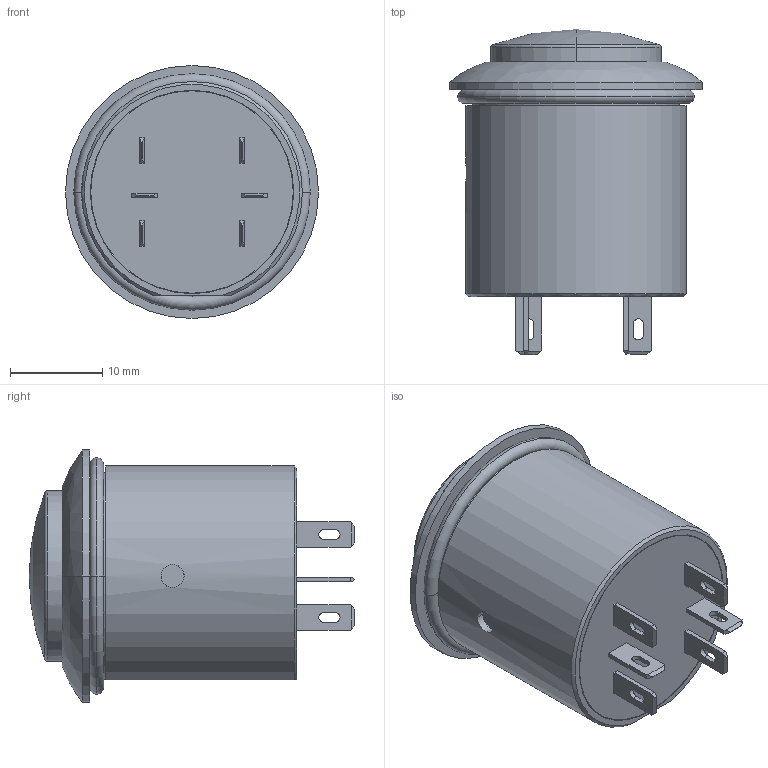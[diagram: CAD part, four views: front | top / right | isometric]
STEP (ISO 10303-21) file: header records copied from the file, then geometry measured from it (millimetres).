
FILE_DESCRIPTION((''),'2;1');
FILE_NAME('FPAR3D1462C1X','2012-07-02T',('jfgibert'),(''),'PRO/ENGINEER BY PARAMETRIC TECHNOLOGY CORPORATION, 2011250','PRO/ENGINEER BY PARAMETRIC TECHNOLOGY CORPORATION, 2011250','');
FILE_SCHEMA(('CONFIG_CONTROL_DESIGN'));
Length unit declared in the file: millimetre
Products named in the file (1): FPAR3D1462C1X
Bounding box: 27.5 x 35.37 x 27.5 mm (x, y, z)
Volume: 4044.3 mm3; surface area: 7822.1 mm2
Topology: 2 solids, 2 shells, 304 faces, 830 edges, 544 vertices
Faces by surface type: plane 201, cylinder 78, torus 9, sphere 8, cone 5, bspline 3
Entity records: 9899 total; most frequent: CARTESIAN_POINT 2025, ORIENTED_EDGE 1644, DIRECTION 1621, EDGE_CURVE 822, VECTOR 555, LINE 555, VERTEX_POINT 544, AXIS2_PLACEMENT_3D 533
